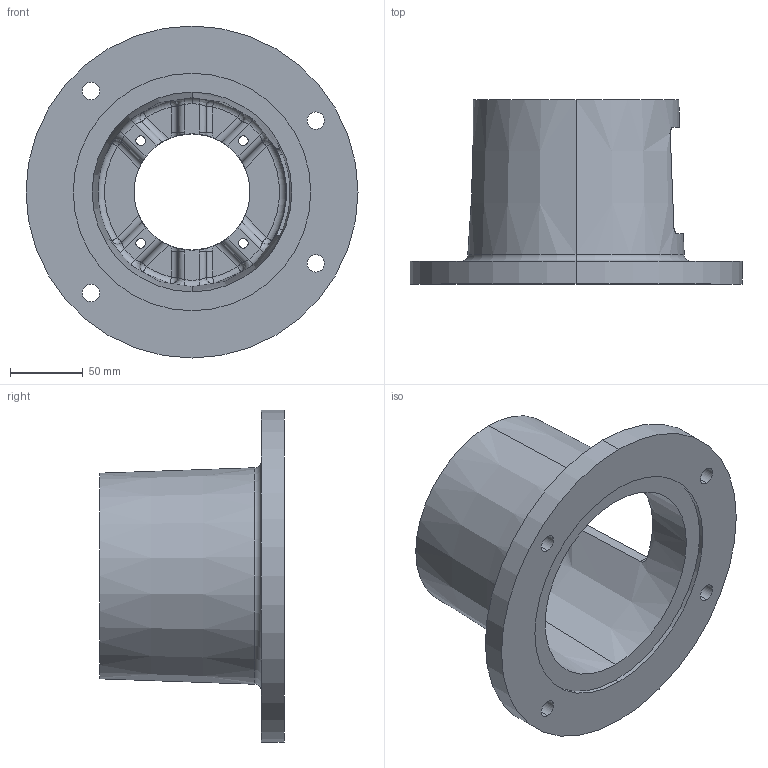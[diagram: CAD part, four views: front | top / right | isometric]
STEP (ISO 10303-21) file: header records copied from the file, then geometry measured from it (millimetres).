
FILE_DESCRIPTION (( 'STEP AP203' ), '1' );
FILE_NAME ('E6445080MS.STEP', '2014-11-03T17:50:29', ( '' ), ( '' ), 'SwSTEP 2.0', 'SolidWorks 2014', '' );
FILE_SCHEMA (( 'CONFIG_CONTROL_DESIGN' ));
Length unit declared in the file: inch
Products named in the file (1): E6445080MS
Bounding box: 228.6 x 127 x 228.6 mm (x, y, z)
Volume: 757730.4 mm3; surface area: 179386.2 mm2
Topology: 1 solids, 1 shells, 149 faces, 376 edges, 219 vertices
Faces by surface type: cylinder 54, plane 32, bspline 24, torus 23, sphere 12, cone 4
Entity records: 6385 total; most frequent: CARTESIAN_POINT 2891, ORIENTED_EDGE 728, DIRECTION 714, EDGE_CURVE 364, AXIS2_PLACEMENT_3D 308, VERTEX_POINT 219, CIRCLE 182, EDGE_LOOP 171
